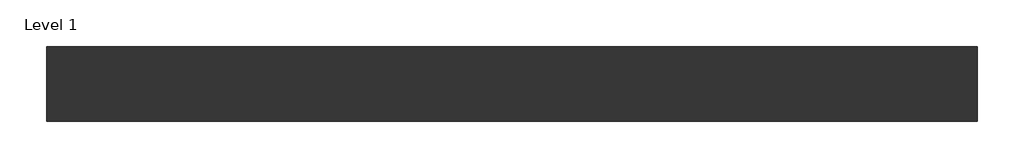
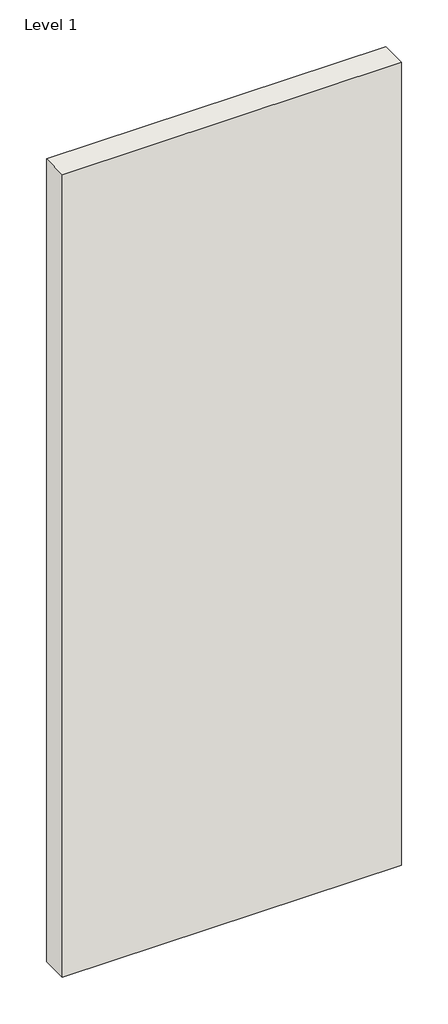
# One storey: 1 wall.
"""IFC4 building model written with IfcOpenShell, lengths in millimetres."""

from ifc_helpers import new_model, si_unit, origin, origin_with_axes, place, context, project, spatial, polyline, outline, extrude, element, save

model = new_model("IFC4")

# Units and contexts
model_context = context("Model", 3, world=origin())
ifc_project = project(units=[si_unit("LENGTHUNIT", "METRE", prefix="MILLI")], contexts=[model_context])

# Site, building, storey
site = spatial("IfcSite", under=ifc_project)
building = spatial("IfcBuilding", under=site)
storey = spatial("IfcBuildingStorey", under=building, Name="Level 1", Elevation=0.0)

# Wall
placement = place(None, origin())
element("IfcWall", 1, ObjectType="RIGIPS - 3.21.10_3.21.15 - EI 60, REI 60 (80) - 12dB", at=placement, inside=storey, context=model_context, shape_type="SweptSolid", body=[
    extrude(outline(polyline([(1000.0, -40.0), (0.0, -40.0), (0.0, 40.0), (1000.0, 40.0), (1000.0, -40.0)])), origin_with_axes(), (0.0, 0.0, 1.0), 2500.0),
])

save(model, "model.ifc")
